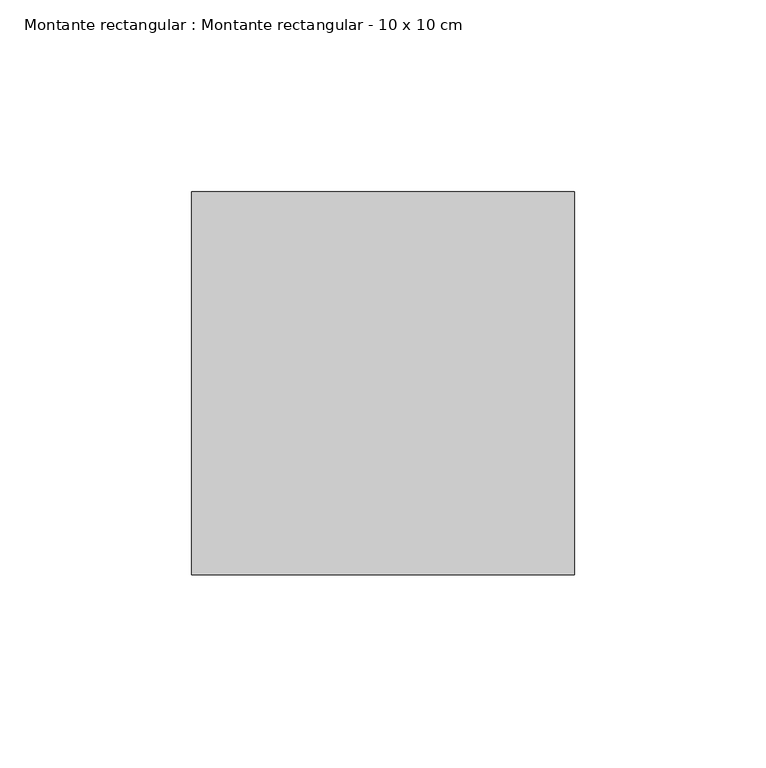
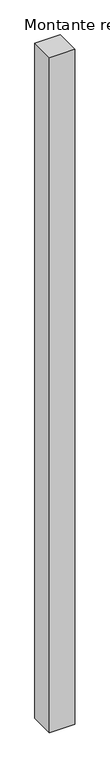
"""IFC4 building model written with IfcOpenShell, lengths in millimetres: member geometry, Montante rectangular : Montante rectangular - 10 x 10 cm."""

from ifc_helpers import new_model, si_unit, frame, origin, place, context, project, spatial, polyline, outline, extrude, source, transform, mapped, element, save


def montante_rectangular_montante_rectangular_10_x_10_cm_30394dbc(model_context):
    return source(origin(), model_context, "Body", "SweptSolid", [
        extrude(outline(polyline([(0.0, -50.0), (-100.0, -50.0), (-100.0, 50.0), (0.0, 50.0), (0.0, -50.0)])), frame((0.0, 0.0, -2833.4047241), z_axis=(0.0, 0.0, 1.0), x_axis=(1.0, 0.0, 0.0)), (0.0, 0.0, 1.0), 2833.4047241),
    ])


if __name__ == "__main__":
    model = new_model("IFC4")
    model_context = context("Model", 3, world=origin())
    ifc_project = project(units=[si_unit("LENGTHUNIT", "METRE", prefix="MILLI")], contexts=[model_context])
    site = spatial("IfcSite", under=ifc_project)
    building = spatial("IfcBuilding", under=site)
    placement = place(None, origin())
    montante_rectangular_montante_rectangular_10_x_10_cm_shape = montante_rectangular_montante_rectangular_10_x_10_cm_30394dbc(model_context)
    element("IfcMember", 1, ObjectType="Montante rectangular : Montante rectangular - 10 x 10 cm", at=placement, inside=building, context=model_context, shape_type="MappedRepresentation", body=[
        mapped(montante_rectangular_montante_rectangular_10_x_10_cm_shape, transform((0.0, 0.0, 0.0), x_axis=(1.0, 0.0, 0.0), y_axis=(0.0, 1.0, 0.0), z_axis=(0.0, 0.0, 1.0))),
    ])
    save(model, "model.ifc")
